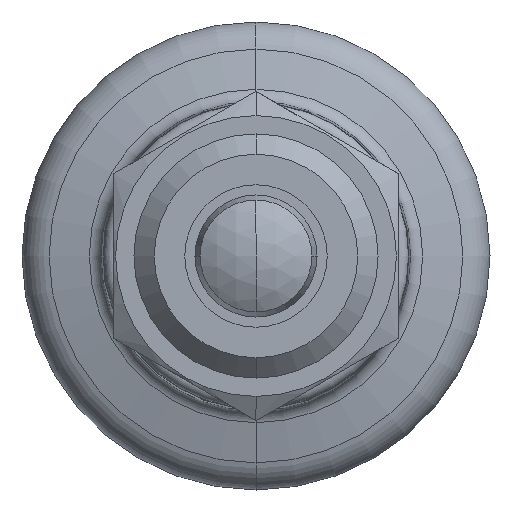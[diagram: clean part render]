
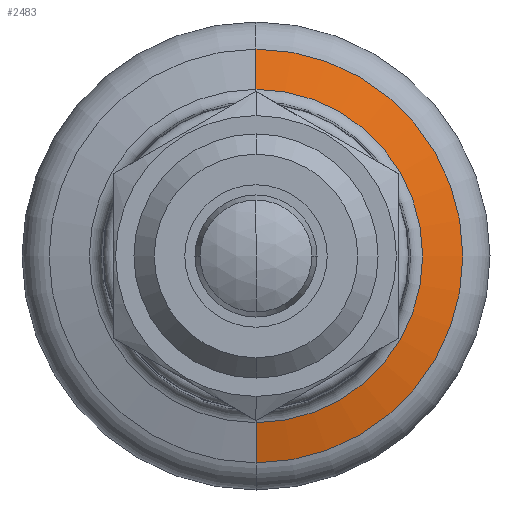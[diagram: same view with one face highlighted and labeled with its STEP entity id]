
A CAD part, front view. The second image highlights one B-rep face of the part: STEP entity #2483.
In plain terms, the highlighted conical face has half-angle 75 degrees and reference radius 10.166 mm.
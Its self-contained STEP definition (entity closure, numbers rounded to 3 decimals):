
#39 = EDGE_CURVE ( 'NONE', #349, #2128, #3302, .T. ) ;
#298 = AXIS2_PLACEMENT_3D ( 'NONE', #1627, #3837, #1941 ) ;
#305 = DIRECTION ( 'NONE',  ( 0., -1., 0. ) ) ;
#349 = VERTEX_POINT ( 'NONE', #763 ) ;
#540 = ORIENTED_EDGE ( 'NONE', *, *, #39, .T. ) ;
#609 = EDGE_CURVE ( 'NONE', #2428, #349, #2325, .T. ) ;
#763 = CARTESIAN_POINT ( 'NONE',  ( 50.143, -10.166, 0. ) ) ;
#803 = VECTOR ( 'NONE', #2501, 1000. ) ;
#1111 = AXIS2_PLACEMENT_3D ( 'NONE', #2237, #3594, #1270 ) ;
#1167 = CARTESIAN_POINT ( 'NONE',  ( 50.143, 10.166, 0. ) ) ;
#1251 = DIRECTION ( 'NONE',  ( -1., 0., 0. ) ) ;
#1270 = DIRECTION ( 'NONE',  ( 0., 1., 0. ) ) ;
#1301 = FACE_OUTER_BOUND ( 'NONE', #2089, .T. ) ;
#1320 = AXIS2_PLACEMENT_3D ( 'NONE', #2927, #1251, #305 ) ;
#1398 = VECTOR ( 'NONE', #3001, 1000. ) ;
#1523 = LINE ( 'NONE', #1167, #803 ) ;
#1627 = CARTESIAN_POINT ( 'NONE',  ( 49.614, 0., 0. ) ) ;
#1716 = EDGE_CURVE ( 'NONE', #2428, #3772, #2330, .T. ) ;
#1941 = DIRECTION ( 'NONE',  ( 0., -1., 0. ) ) ;
#1943 = ORIENTED_EDGE ( 'NONE', *, *, #1716, .F. ) ;
#1982 = CARTESIAN_POINT ( 'NONE',  ( 49.614, -8.192, 0. ) ) ;
#2089 = EDGE_LOOP ( 'NONE', ( #1943, #2492, #540, #2365 ) ) ;
#2128 = VERTEX_POINT ( 'NONE', #3426 ) ;
#2237 = CARTESIAN_POINT ( 'NONE',  ( 50.143, 0., 0. ) ) ;
#2325 = LINE ( 'NONE', #3657, #1398 ) ;
#2330 = CIRCLE ( 'NONE', #298, 8.192 ) ;
#2365 = ORIENTED_EDGE ( 'NONE', *, *, #3794, .F. ) ;
#2428 = VERTEX_POINT ( 'NONE', #1982 ) ;
#2483 = ADVANCED_FACE ( 'NONE', ( #1301 ), #3168, .T. ) ;
#2492 = ORIENTED_EDGE ( 'NONE', *, *, #609, .T. ) ;
#2501 = DIRECTION ( 'NONE',  ( 0.259, 0.966, 0. ) ) ;
#2927 = CARTESIAN_POINT ( 'NONE',  ( 50.143, 0., 0. ) ) ;
#3001 = DIRECTION ( 'NONE',  ( 0.259, -0.966, 0. ) ) ;
#3164 = CARTESIAN_POINT ( 'NONE',  ( 49.614, 8.192, 0. ) ) ;
#3168 = CONICAL_SURFACE ( 'NONE', #1111, 10.166, 1.309 ) ;
#3302 = CIRCLE ( 'NONE', #1320, 10.166 ) ;
#3426 = CARTESIAN_POINT ( 'NONE',  ( 50.143, 10.166, 0. ) ) ;
#3594 = DIRECTION ( 'NONE',  ( 1., 0., 0. ) ) ;
#3657 = CARTESIAN_POINT ( 'NONE',  ( 50.143, -10.166, 0. ) ) ;
#3772 = VERTEX_POINT ( 'NONE', #3164 ) ;
#3794 = EDGE_CURVE ( 'NONE', #3772, #2128, #1523, .T. ) ;
#3837 = DIRECTION ( 'NONE',  ( -1., 0., 0. ) ) ;
